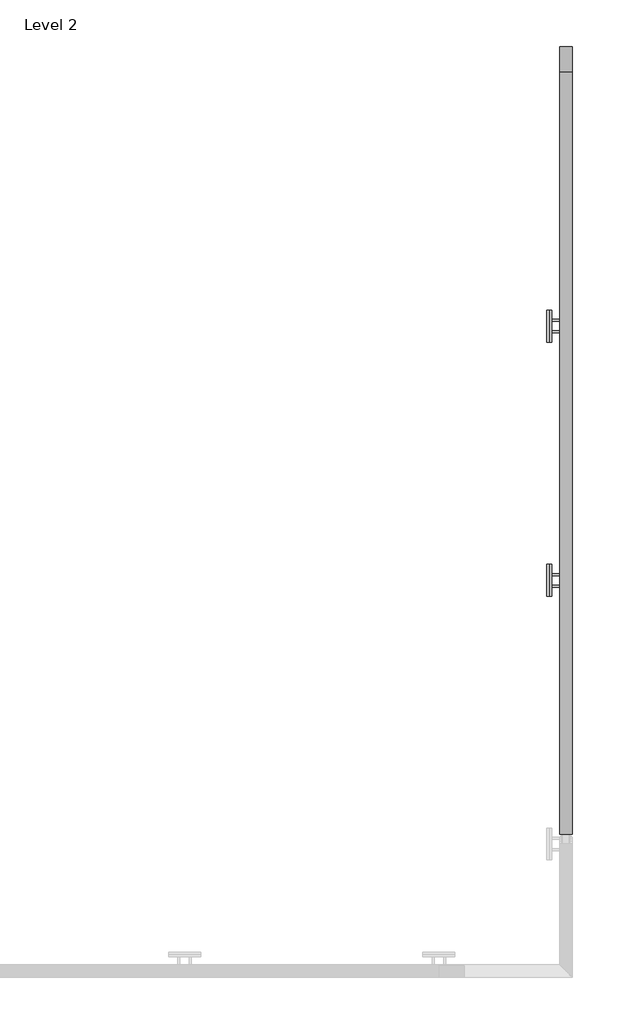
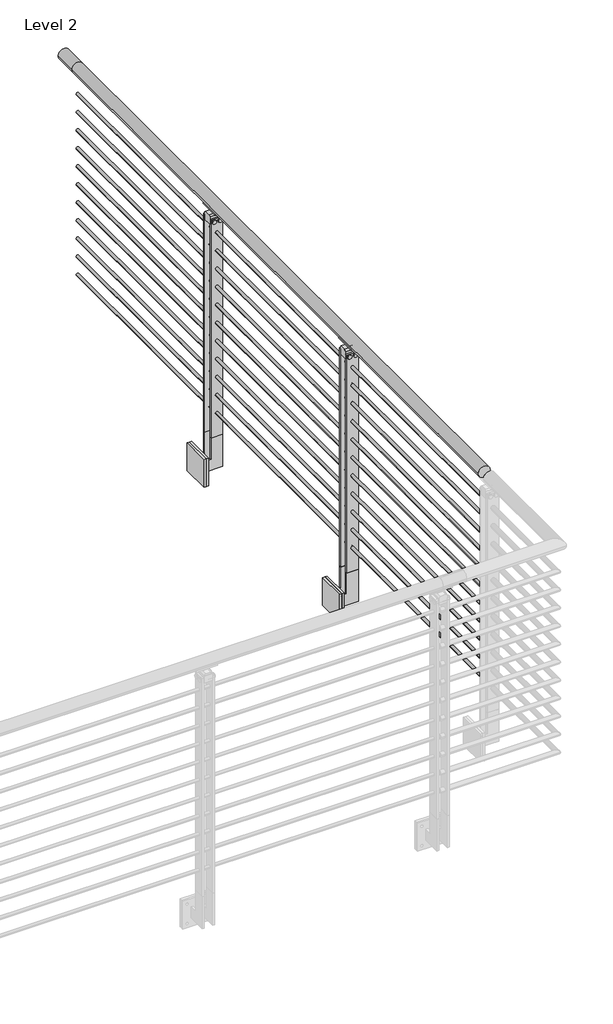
# One storey, part 4 of 31: 1 railing.
"""IFC4 building model written with IfcOpenShell, lengths in millimetres."""

from ifc_helpers import new_model, si_unit, point, frame, frame_2d, origin, place, context, project, spatial, polyline, circle_curve, trimmed, segment, composite_curve, outline, extrude, element, save
from ifc_brep_helpers import plane_surface, cylinder_surface, revolved_surface, advanced_brep

model = new_model("IFC4")

# Units and contexts
model_context = context("Model", 3, world=origin())
ifc_project = project(units=[si_unit("LENGTHUNIT", "METRE", prefix="MILLI")], contexts=[model_context])

# Site, building, storey
site = spatial("IfcSite", under=ifc_project)
building = spatial("IfcBuilding", under=site)
storey = spatial("IfcBuildingStorey", under=building, Name="Level 2", Elevation=3048.0)

# Railing
placement = place(None, origin())
element("IfcRailing", 1, ObjectType="VIVA-BLADE-Multiline-Fascia Mount-Straight", at=placement, inside=storey, context=model_context, shape_type="SolidModel", body=[
    advanced_brep(
    [(-3649.4054973, -66455.7426165, 4102.1), (-3598.6054973, -66455.7426165, 4102.1), (-3649.4054973, -66557.3426165, 4102.1), (-3598.6054973, -66557.3426165, 4102.1), (-3649.4054973, -69605.3426165, 4102.1), (-3598.6054973, -69605.3426165, 4102.1)],
    [
        (0, 1, circle_curve(frame((-3624.0054973, -66455.7426165, 4102.1), z_axis=(0.0, 1.0, 0.0), x_axis=(1.0, 0.0, 0.0)), 25.4)),
        (1, 0, circle_curve(frame((-3624.0054973, -66455.7426165, 4102.1), z_axis=(0.0, 1.0, 0.0), x_axis=(1.0, 0.0, 0.0)), 25.4)),
        (0, 2),
        (2, 3, circle_curve(frame((-3624.0054973, -66557.3426165, 4102.1), z_axis=(0.0, 1.0, 0.0), x_axis=(1.0, 0.0, 0.0)), 25.4)),
        (3, 1),
        (3, 2, circle_curve(frame((-3624.0054973, -66557.3426165, 4102.1), z_axis=(0.0, 1.0, 0.0), x_axis=(1.0, 0.0, 0.0)), 25.4)),
        (4, 5, circle_curve(frame((-3624.0054973, -69605.3426165, 4102.1), z_axis=(0.0, -1.0, 0.0), x_axis=(1.0, 0.0, 0.0)), 25.4)),
        (5, 4, circle_curve(frame((-3624.0054973, -69605.3426165, 4102.1), z_axis=(0.0, -1.0, 0.0), x_axis=(1.0, 0.0, 0.0)), 25.4)),
        (2, 4),
        (5, 3),
    ],
    [
        plane_surface(frame((-3624.0054973, -66455.7426165, 4127.5), z_axis=(0.0, 1.0, 0.0), x_axis=(0.0, 0.0, -1.0))),
        cylinder_surface(frame((-3624.0054973, -66455.7426165, 4102.1), z_axis=(0.0, 1.0, 0.0), x_axis=(1.0, 0.0, 0.0)), 25.4),
        plane_surface(frame((-3624.0054973, -69605.3426165, 4127.5), z_axis=(0.0, -1.0, 0.0), x_axis=(0.0, 0.0, -1.0))),
        cylinder_surface(frame((-3624.0054973, -66557.3426165, 4102.1), z_axis=(0.0, 1.0, 0.0), x_axis=(1.0, 0.0, 0.0)), 25.4),
    ],
    [
        (0, [[1, 2]]),
        (1, [[-1, 3, 4, 5]]),
        (1, [[-2, -5, 6, -3]]),
        (2, [[7, 8]]),
        (3, [[-4, 9, -8, 10]]),
        (3, [[-6, -10, -7, -9]]),
    ],
),
    extrude(outline(composite_curve([segment(trimmed(circle_curve(frame_2d((3981.45, -3624.0054973)), 6.35), [point((3981.45, -3630.3554973))], [point((3981.45, -3617.6554973))], False, "CARTESIAN"), True, "CONTINUOUS"), segment(trimmed(circle_curve(frame_2d((3981.45, -3624.0054973)), 6.35), [point((3981.45, -3617.6554973))], [point((3981.45, -3630.3554973))], False, "CARTESIAN"), True, "CONTINUOUS")], self_intersect=False)), frame((0.0, -69605.3426165, 0.0), z_axis=(0.0, 1.0, 0.0), x_axis=(0.0, 0.0, 1.0)), (0.0, 0.0, 1.0), 3048.0),
    extrude(outline(composite_curve([segment(trimmed(circle_curve(frame_2d((3898.9, -3624.0054973)), 6.35), [point((3898.9, -3630.3554973))], [point((3898.9, -3617.6554973))], False, "CARTESIAN"), True, "CONTINUOUS"), segment(trimmed(circle_curve(frame_2d((3898.9, -3624.0054973)), 6.35), [point((3898.9, -3617.6554973))], [point((3898.9, -3630.3554973))], False, "CARTESIAN"), True, "CONTINUOUS")], self_intersect=False)), frame((0.0, -69605.3426165, 0.0), z_axis=(0.0, 1.0, 0.0), x_axis=(0.0, 0.0, 1.0)), (0.0, 0.0, 1.0), 3048.0),
    extrude(outline(composite_curve([segment(trimmed(circle_curve(frame_2d((3816.35, -3624.0054973)), 6.35), [point((3816.35, -3630.3554973))], [point((3816.35, -3617.6554973))], False, "CARTESIAN"), True, "CONTINUOUS"), segment(trimmed(circle_curve(frame_2d((3816.35, -3624.0054973)), 6.35), [point((3816.35, -3617.6554973))], [point((3816.35, -3630.3554973))], False, "CARTESIAN"), True, "CONTINUOUS")], self_intersect=False)), frame((0.0, -69605.3426165, 0.0), z_axis=(0.0, 1.0, 0.0), x_axis=(0.0, 0.0, 1.0)), (0.0, 0.0, 1.0), 3048.0),
    extrude(outline(composite_curve([segment(trimmed(circle_curve(frame_2d((3733.8, -3624.0054973)), 6.35), [point((3733.8, -3630.3554973))], [point((3733.8, -3617.6554973))], False, "CARTESIAN"), True, "CONTINUOUS"), segment(trimmed(circle_curve(frame_2d((3733.8, -3624.0054973)), 6.35), [point((3733.8, -3617.6554973))], [point((3733.8, -3630.3554973))], False, "CARTESIAN"), True, "CONTINUOUS")], self_intersect=False)), frame((0.0, -69605.3426165, 0.0), z_axis=(0.0, 1.0, 0.0), x_axis=(0.0, 0.0, 1.0)), (0.0, 0.0, 1.0), 3048.0),
    extrude(outline(composite_curve([segment(trimmed(circle_curve(frame_2d((3651.25, -3624.0054973)), 6.35), [point((3651.25, -3630.3554973))], [point((3651.25, -3617.6554973))], False, "CARTESIAN"), True, "CONTINUOUS"), segment(trimmed(circle_curve(frame_2d((3651.25, -3624.0054973)), 6.35), [point((3651.25, -3617.6554973))], [point((3651.25, -3630.3554973))], False, "CARTESIAN"), True, "CONTINUOUS")], self_intersect=False)), frame((0.0, -69605.3426165, 0.0), z_axis=(0.0, 1.0, 0.0), x_axis=(0.0, 0.0, 1.0)), (0.0, 0.0, 1.0), 3048.0),
    extrude(outline(composite_curve([segment(trimmed(circle_curve(frame_2d((3568.7, -3624.0054973)), 6.35), [point((3568.7, -3630.3554973))], [point((3568.7, -3617.6554973))], False, "CARTESIAN"), True, "CONTINUOUS"), segment(trimmed(circle_curve(frame_2d((3568.7, -3624.0054973)), 6.35), [point((3568.7, -3617.6554973))], [point((3568.7, -3630.3554973))], False, "CARTESIAN"), True, "CONTINUOUS")], self_intersect=False)), frame((0.0, -69605.3426165, 0.0), z_axis=(0.0, 1.0, 0.0), x_axis=(0.0, 0.0, 1.0)), (0.0, 0.0, 1.0), 3048.0),
    extrude(outline(composite_curve([segment(trimmed(circle_curve(frame_2d((3486.15, -3624.0054973)), 6.35), [point((3486.15, -3630.3554973))], [point((3486.15, -3617.6554973))], False, "CARTESIAN"), True, "CONTINUOUS"), segment(trimmed(circle_curve(frame_2d((3486.15, -3624.0054973)), 6.35), [point((3486.15, -3617.6554973))], [point((3486.15, -3630.3554973))], False, "CARTESIAN"), True, "CONTINUOUS")], self_intersect=False)), frame((0.0, -69605.3426165, 0.0), z_axis=(0.0, 1.0, 0.0), x_axis=(0.0, 0.0, 1.0)), (0.0, 0.0, 1.0), 3048.0),
    extrude(outline(composite_curve([segment(trimmed(circle_curve(frame_2d((3403.6, -3624.0054973)), 6.35), [point((3403.6, -3630.3554973))], [point((3403.6, -3617.6554973))], False, "CARTESIAN"), True, "CONTINUOUS"), segment(trimmed(circle_curve(frame_2d((3403.6, -3624.0054973)), 6.35), [point((3403.6, -3617.6554973))], [point((3403.6, -3630.3554973))], False, "CARTESIAN"), True, "CONTINUOUS")], self_intersect=False)), frame((0.0, -69605.3426165, 0.0), z_axis=(0.0, 1.0, 0.0), x_axis=(0.0, 0.0, 1.0)), (0.0, 0.0, 1.0), 3048.0),
    extrude(outline(composite_curve([segment(trimmed(circle_curve(frame_2d((3321.05, -3624.0054973)), 6.35), [point((3321.05, -3630.3554973))], [point((3321.05, -3617.6554973))], False, "CARTESIAN"), True, "CONTINUOUS"), segment(trimmed(circle_curve(frame_2d((3321.05, -3624.0054973)), 6.35), [point((3321.05, -3617.6554973))], [point((3321.05, -3630.3554973))], False, "CARTESIAN"), True, "CONTINUOUS")], self_intersect=False)), frame((0.0, -69605.3426165, 0.0), z_axis=(0.0, 1.0, 0.0), x_axis=(0.0, 0.0, 1.0)), (0.0, 0.0, 1.0), 3048.0),
    extrude(outline(composite_curve([segment(trimmed(circle_curve(frame_2d((3238.5, -3624.0054973)), 6.35), [point((3238.5, -3630.3554973))], [point((3238.5, -3617.6554973))], False, "CARTESIAN"), True, "CONTINUOUS"), segment(trimmed(circle_curve(frame_2d((3238.5, -3624.0054973)), 6.35), [point((3238.5, -3617.6554973))], [point((3238.5, -3630.3554973))], False, "CARTESIAN"), True, "CONTINUOUS")], self_intersect=False)), frame((0.0, -69605.3426165, 0.0), z_axis=(0.0, 1.0, 0.0), x_axis=(0.0, 0.0, 1.0)), (0.0, 0.0, 1.0), 3048.0),
    extrude(outline(composite_curve([segment(trimmed(circle_curve(frame_2d((3155.95, -3624.0054973)), 6.35), [point((3155.95, -3630.3554973))], [point((3155.95, -3617.6554973))], False, "CARTESIAN"), True, "CONTINUOUS"), segment(trimmed(circle_curve(frame_2d((3155.95, -3624.0054973)), 6.35), [point((3155.95, -3617.6554973))], [point((3155.95, -3630.3554973))], False, "CARTESIAN"), True, "CONTINUOUS")], self_intersect=False)), frame((0.0, -69605.3426165, 0.0), z_axis=(0.0, 1.0, 0.0), x_axis=(0.0, 0.0, 1.0)), (0.0, 0.0, 1.0), 3048.0),
    extrude(outline(polyline([(2901.95, -3598.6029694), (3048.0, -3598.6029694), (3048.0, -3649.4029694), (2952.75, -3649.4029694), (2952.75, -3681.1557031), (2901.95, -3681.1557031), (2901.95, -3598.6029694)])), frame((0.0, -68570.2926165, 0.0), z_axis=(0.0, 1.0, 0.0), x_axis=(0.0, 0.0, 1.0)), (0.0, 0.0, 1.0), 8.0248357),
    extrude(outline(polyline([(3048.0, -3649.4029694), (2952.75, -3649.4029694), (2952.75, -3681.1557031), (2901.95, -3681.1557031), (2901.95, -3598.6029694), (3048.0, -3598.6029694), (3048.0, -3649.4029694)])), frame((0.0, -68616.3935785, 0.0), z_axis=(0.0, 1.0, 0.0), x_axis=(0.0, 0.0, 1.0)), (0.0, 0.0, 1.0), 8.001),
    advanced_brep(
    [(-3636.765621, -68634.5800165, 4080.0967655), (-3640.6015184, -68634.5800165, 4075.707533), (-3609.0846261, -68634.5800165, 4075.1267745), (-3611.8935564, -68634.5800165, 4079.9535285), (-3636.765621, -68544.1052165, 4080.0967655), (-3611.8065843, -68544.1052165, 4080.0018447), (-3608.9708327, -68544.1052165, 4075.1893964), (-3640.6015184, -68544.1052165, 4075.707533)],
    [
        (0, 1, circle_curve(frame((-3638.3131786, -68634.5800165, 4077.5784521), z_axis=(0.0, -1.0, 0.0), x_axis=(-1.0, 0.0, 0.0)), 2.9558141)),
        (1, 2, circle_curve(frame((-3624.3352812, -68634.5800165, 4102.9742164), z_axis=(0.0, -1.0, 0.0), x_axis=(-1.0, 0.0, 0.0)), 31.75)),
        (2, 3, circle_curve(frame((-3610.5619312, -68634.5800165, 4077.4993599), z_axis=(0.0, -1.0, 0.0), x_axis=(-1.0, 0.0, 0.0)), 2.7949225)),
        (3, 0, circle_curve(frame((-3624.2018181, -68634.5800165, 4102.2115898), z_axis=(0.0, 1.0, 0.0), x_axis=(-1.0, 0.0, 0.0)), 25.4345159)),
        (4, 5, circle_curve(frame((-3624.2018181, -68544.1052165, 4102.2115898), z_axis=(0.0, -1.0, 0.0), x_axis=(-1.0, 0.0, 0.0)), 25.4345159)),
        (5, 6, circle_curve(frame((-3610.5619312, -68544.1052165, 4077.4993599), z_axis=(0.0, 1.0, 0.0), x_axis=(-1.0, 0.0, 0.0)), 2.7949225)),
        (6, 7, circle_curve(frame((-3624.3352812, -68544.1052165, 4102.9742164), z_axis=(0.0, 1.0, 0.0), x_axis=(-1.0, 0.0, 0.0)), 31.75)),
        (7, 4, circle_curve(frame((-3638.3131786, -68544.1052165, 4077.5784521), z_axis=(0.0, 1.0, 0.0), x_axis=(-1.0, 0.0, 0.0)), 2.9558141)),
        (3, 5),
        (4, 0),
        (2, 6),
        (1, 7),
    ],
    [
        plane_surface(frame((-3649.6363339, -68634.5800165, 4102.2115898), z_axis=(0.0, -1.0, 0.0), x_axis=(0.0, 0.0, -1.0))),
        plane_surface(frame((-3649.6363339, -68544.1052165, 4102.2115898), z_axis=(0.0, 1.0, 0.0), x_axis=(0.0, 0.0, 1.0))),
        revolved_surface(polyline([(-3649.636334, -68544.1052165, 4102.2115898), (-3649.636334, -68634.5800165, 4102.2115898)]), (-3624.2018181, -68544.1052165, 4102.2115898), (0.0, 1.0, 0.0)),
        cylinder_surface(frame((-3610.5619312, -68544.1052165, 4077.4993599), z_axis=(0.0, -1.0, 0.0), x_axis=(-1.0, 0.0, 0.0)), 2.7949225),
        cylinder_surface(frame((-3624.3352812, -68544.1052165, 4102.9742164), z_axis=(0.0, -1.0, 0.0), x_axis=(-1.0, 0.0, 0.0)), 31.75),
        cylinder_surface(frame((-3638.3131786, -68544.1052165, 4077.5784521), z_axis=(0.0, -1.0, 0.0), x_axis=(-1.0, 0.0, 0.0)), 2.9558141),
    ],
    [
        (0, [[1, 2, 3, 4]]),
        (1, [[5, 6, 7, 8]]),
        (2, [[9, -5, 10, -4]]),
        (3, [[11, -6, -9, -3]]),
        (4, [[12, -7, -11, -2]]),
        (5, [[-10, -8, -12, -1]]),
    ],
),
    extrude(outline(polyline([(-3700.2057031, -68652.8306797), (-3700.2057031, -68525.8306797), (-3690.6807031, -68525.8306797), (-3690.6807031, -68652.8306797), (-3700.2057031, -68652.8306797)])), frame((0.0, 0.0, 2863.85), z_axis=(0.0, 0.0, 1.0), x_axis=(1.0, 0.0, 0.0)), (0.0, 0.0, 1.0), 127.0),
    extrude(outline(composite_curve([segment(trimmed(circle_curve(frame_2d((-68616.4105314, 4062.4125)), 14.3679149), [point((-68602.0426165, 4062.4125))], [point((-68616.4105314, 4076.7804149))], True, "CARTESIAN"), True, "CONTINUOUS"), segment(polyline([(-68616.4105314, 4076.7804149), (-68562.2747017, 4076.7804149)]), True, "CONTINUOUS"), segment(trimmed(circle_curve(frame_2d((-68562.2747017, 4062.4125)), 14.3679149), [point((-68562.2747017, 4076.7804149))], [point((-68576.6426165, 4062.4125))], True, "CARTESIAN"), True, "CONTINUOUS"), segment(polyline([(-68576.6426165, 4062.4125), (-68602.0426165, 4062.4125)]), True, "CONTINUOUS")], self_intersect=False)), frame((-3626.5454973, 0.0, 0.0), z_axis=(1.0, 0.0, 0.0), x_axis=(0.0, 1.0, 0.0)), (0.0, 0.0, 1.0), 5.08),
    extrude(outline(polyline([(-3649.405294, -68562.2677809), (-3598.6029694, -68562.2677809), (-3598.6029694, -68570.2926165), (-3649.405294, -68570.2926165), (-3649.405294, -68562.2677809)])), frame((0.0, 0.0, 3048.0), z_axis=(0.0, 0.0, 1.0), x_axis=(1.0, 0.0, 0.0)), (0.0, 0.0, 1.0), 996.95),
    extrude(outline(polyline([(-68525.8306797, 2863.85), (-68652.8306797, 2863.85), (-68652.8306797, 2990.85), (-68525.8306797, 2990.85), (-68525.8306797, 2863.85)]), holes=[composite_curve([segment(trimmed(circle_curve(frame_2d((-68544.8806797, 2971.8)), 4.7068371), [point((-68549.5875168, 2971.8))], [point((-68540.1738426, 2971.8))], True, "CARTESIAN"), True, "CONTINUOUS"), segment(trimmed(circle_curve(frame_2d((-68544.8806797, 2971.8)), 4.7068371), [point((-68540.1738426, 2971.8))], [point((-68549.5875168, 2971.8))], True, "CARTESIAN"), True, "CONTINUOUS")], self_intersect=False), composite_curve([segment(trimmed(circle_curve(frame_2d((-68633.7806797, 2971.8)), 4.7068371), [point((-68638.4875168, 2971.8))], [point((-68629.0738426, 2971.8))], True, "CARTESIAN"), True, "CONTINUOUS"), segment(trimmed(circle_curve(frame_2d((-68633.7806797, 2971.8)), 4.7068371), [point((-68629.0738426, 2971.8))], [point((-68638.4875168, 2971.8))], True, "CARTESIAN"), True, "CONTINUOUS")], self_intersect=False), composite_curve([segment(trimmed(circle_curve(frame_2d((-68633.7806797, 2882.9)), 4.7068371), [point((-68638.4875168, 2882.9))], [point((-68629.0738426, 2882.9))], True, "CARTESIAN"), True, "CONTINUOUS"), segment(trimmed(circle_curve(frame_2d((-68633.7806797, 2882.9)), 4.7068371), [point((-68629.0738426, 2882.9))], [point((-68638.4875168, 2882.9))], True, "CARTESIAN"), True, "CONTINUOUS")], self_intersect=False), composite_curve([segment(trimmed(circle_curve(frame_2d((-68544.8806797, 2882.9)), 4.7068371), [point((-68549.5875168, 2882.9))], [point((-68540.1738426, 2882.9))], True, "CARTESIAN"), True, "CONTINUOUS"), segment(trimmed(circle_curve(frame_2d((-68544.8806797, 2882.9)), 4.7068371), [point((-68540.1738426, 2882.9))], [point((-68549.5875168, 2882.9))], True, "CARTESIAN"), True, "CONTINUOUS")], self_intersect=False)]), frame((-3690.6807031, 0.0, 0.0), z_axis=(1.0, 0.0, 0.0), x_axis=(0.0, 1.0, 0.0)), (0.0, 0.0, 1.0), 9.525),
    extrude(outline(composite_curve([segment(trimmed(circle_curve(frame_2d((4034.0416929, -3611.3030204)), 8.89), [point((4034.0416929, -3602.4130204))], [point((4034.0416929, -3620.1930204))], False, "CARTESIAN"), True, "CONTINUOUS"), segment(trimmed(circle_curve(frame_2d((4034.0416929, -3611.3030204)), 8.89), [point((4034.0416929, -3620.1930204))], [point((4034.0416929, -3602.4130204))], False, "CARTESIAN"), True, "CONTINUOUS")], self_intersect=False)), frame((0.0, -68621.0806797, 0.0), z_axis=(0.0, 1.0, 0.0), x_axis=(0.0, 0.0, 1.0)), (0.0, 0.0, 1.0), 63.4880631),
    extrude(outline(composite_curve([segment(trimmed(circle_curve(frame_2d((4034.0416929, -3636.7029184)), 8.89), [point((4034.0416929, -3627.8129184))], [point((4034.0416929, -3645.5929184))], False, "CARTESIAN"), True, "CONTINUOUS"), segment(trimmed(circle_curve(frame_2d((4034.0416929, -3636.7029184)), 8.89), [point((4034.0416929, -3645.5929184))], [point((4034.0416929, -3627.8129184))], False, "CARTESIAN"), True, "CONTINUOUS")], self_intersect=False)), frame((0.0, -68621.0806797, 0.0), z_axis=(0.0, 1.0, 0.0), x_axis=(0.0, 0.0, 1.0)), (0.0, 0.0, 1.0), 63.4880631),
    extrude(outline(polyline([(-68570.2926165, 4022.7123), (-68608.3926165, 4022.7123), (-68608.3926165, 4056.0625), (-68602.0426165, 4062.4125), (-68576.6426165, 4062.4125), (-68570.2926165, 4056.0625), (-68570.2926165, 4022.7123)])), frame((-3649.4054973, 0.0, 0.0), z_axis=(1.0, 0.0, 0.0), x_axis=(0.0, 1.0, 0.0)), (0.0, 0.0, 1.0), 50.8025279),
    extrude(outline(polyline([(-3649.405294, -68608.3925785), (-3598.6029694, -68608.3925785), (-3598.6029694, -68616.3935785), (-3649.405294, -68616.3935785), (-3649.405294, -68608.3925785)])), frame((0.0, 0.0, 3048.0), z_axis=(0.0, 0.0, 1.0), x_axis=(1.0, 0.0, 0.0)), (0.0, 0.0, 1.0), 996.95),
    extrude(outline(polyline([(2901.95, -3598.6029694), (3048.0, -3598.6029694), (3048.0, -3649.4029694), (2952.75, -3649.4029694), (2952.75, -3681.1557031), (2901.95, -3681.1557031), (2901.95, -3598.6029694)])), frame((0.0, -67554.2926165, 0.0), z_axis=(0.0, 1.0, 0.0), x_axis=(0.0, 0.0, 1.0)), (0.0, 0.0, 1.0), 8.0248357),
    extrude(outline(polyline([(3048.0, -3649.4029694), (2952.75, -3649.4029694), (2952.75, -3681.1557031), (2901.95, -3681.1557031), (2901.95, -3598.6029694), (3048.0, -3598.6029694), (3048.0, -3649.4029694)])), frame((0.0, -67600.3935785, 0.0), z_axis=(0.0, 1.0, 0.0), x_axis=(0.0, 0.0, 1.0)), (0.0, 0.0, 1.0), 8.001),
    advanced_brep(
    [(-3636.765621, -67618.5800165, 4080.0967655), (-3640.6015184, -67618.5800165, 4075.707533), (-3609.0846261, -67618.5800165, 4075.1267745), (-3611.8935564, -67618.5800165, 4079.9535285), (-3636.765621, -67528.1052165, 4080.0967655), (-3611.8065843, -67528.1052165, 4080.0018447), (-3608.9708327, -67528.1052165, 4075.1893964), (-3640.6015184, -67528.1052165, 4075.707533)],
    [
        (0, 1, circle_curve(frame((-3638.3131786, -67618.5800165, 4077.5784521), z_axis=(0.0, -1.0, 0.0), x_axis=(-1.0, 0.0, 0.0)), 2.9558141)),
        (1, 2, circle_curve(frame((-3624.3352812, -67618.5800165, 4102.9742164), z_axis=(0.0, -1.0, 0.0), x_axis=(-1.0, 0.0, 0.0)), 31.75)),
        (2, 3, circle_curve(frame((-3610.5619312, -67618.5800165, 4077.4993599), z_axis=(0.0, -1.0, 0.0), x_axis=(-1.0, 0.0, 0.0)), 2.7949225)),
        (3, 0, circle_curve(frame((-3624.2018181, -67618.5800165, 4102.2115898), z_axis=(0.0, 1.0, 0.0), x_axis=(-1.0, 0.0, 0.0)), 25.4345159)),
        (4, 5, circle_curve(frame((-3624.2018181, -67528.1052165, 4102.2115898), z_axis=(0.0, -1.0, 0.0), x_axis=(-1.0, 0.0, 0.0)), 25.4345159)),
        (5, 6, circle_curve(frame((-3610.5619312, -67528.1052165, 4077.4993599), z_axis=(0.0, 1.0, 0.0), x_axis=(-1.0, 0.0, 0.0)), 2.7949225)),
        (6, 7, circle_curve(frame((-3624.3352812, -67528.1052165, 4102.9742164), z_axis=(0.0, 1.0, 0.0), x_axis=(-1.0, 0.0, 0.0)), 31.75)),
        (7, 4, circle_curve(frame((-3638.3131786, -67528.1052165, 4077.5784521), z_axis=(0.0, 1.0, 0.0), x_axis=(-1.0, 0.0, 0.0)), 2.9558141)),
        (3, 5),
        (4, 0),
        (2, 6),
        (1, 7),
    ],
    [
        plane_surface(frame((-3649.6363339, -67618.5800165, 4102.2115898), z_axis=(0.0, -1.0, 0.0), x_axis=(0.0, 0.0, -1.0))),
        plane_surface(frame((-3649.6363339, -67528.1052165, 4102.2115898), z_axis=(0.0, 1.0, 0.0), x_axis=(0.0, 0.0, 1.0))),
        revolved_surface(polyline([(-3649.636334, -67528.1052165, 4102.2115898), (-3649.636334, -67618.5800165, 4102.2115898)]), (-3624.2018181, -67528.1052165, 4102.2115898), (0.0, 1.0, 0.0)),
        cylinder_surface(frame((-3610.5619312, -67528.1052165, 4077.4993599), z_axis=(0.0, -1.0, 0.0), x_axis=(-1.0, 0.0, 0.0)), 2.7949225),
        cylinder_surface(frame((-3624.3352812, -67528.1052165, 4102.9742164), z_axis=(0.0, -1.0, 0.0), x_axis=(-1.0, 0.0, 0.0)), 31.75),
        cylinder_surface(frame((-3638.3131786, -67528.1052165, 4077.5784521), z_axis=(0.0, -1.0, 0.0), x_axis=(-1.0, 0.0, 0.0)), 2.9558141),
    ],
    [
        (0, [[1, 2, 3, 4]]),
        (1, [[5, 6, 7, 8]]),
        (2, [[9, -5, 10, -4]]),
        (3, [[11, -6, -9, -3]]),
        (4, [[12, -7, -11, -2]]),
        (5, [[-10, -8, -12, -1]]),
    ],
),
    extrude(outline(polyline([(-3700.2057031, -67636.8306797), (-3700.2057031, -67509.8306797), (-3690.6807031, -67509.8306797), (-3690.6807031, -67636.8306797), (-3700.2057031, -67636.8306797)])), frame((0.0, 0.0, 2863.85), z_axis=(0.0, 0.0, 1.0), x_axis=(1.0, 0.0, 0.0)), (0.0, 0.0, 1.0), 127.0),
    extrude(outline(composite_curve([segment(trimmed(circle_curve(frame_2d((-67600.4105314, 4062.4125)), 14.3679149), [point((-67586.0426165, 4062.4125))], [point((-67600.4105314, 4076.7804149))], True, "CARTESIAN"), True, "CONTINUOUS"), segment(polyline([(-67600.4105314, 4076.7804149), (-67546.2747017, 4076.7804149)]), True, "CONTINUOUS"), segment(trimmed(circle_curve(frame_2d((-67546.2747017, 4062.4125)), 14.3679149), [point((-67546.2747017, 4076.7804149))], [point((-67560.6426165, 4062.4125))], True, "CARTESIAN"), True, "CONTINUOUS"), segment(polyline([(-67560.6426165, 4062.4125), (-67586.0426165, 4062.4125)]), True, "CONTINUOUS")], self_intersect=False)), frame((-3626.5454973, 0.0, 0.0), z_axis=(1.0, 0.0, 0.0), x_axis=(0.0, 1.0, 0.0)), (0.0, 0.0, 1.0), 5.08),
    extrude(outline(polyline([(-3649.405294, -67546.2677809), (-3598.6029694, -67546.2677809), (-3598.6029694, -67554.2926165), (-3649.405294, -67554.2926165), (-3649.405294, -67546.2677809)])), frame((0.0, 0.0, 3048.0), z_axis=(0.0, 0.0, 1.0), x_axis=(1.0, 0.0, 0.0)), (0.0, 0.0, 1.0), 996.95),
    extrude(outline(polyline([(-67509.8306797, 2863.85), (-67636.8306797, 2863.85), (-67636.8306797, 2990.85), (-67509.8306797, 2990.85), (-67509.8306797, 2863.85)]), holes=[composite_curve([segment(trimmed(circle_curve(frame_2d((-67528.8806797, 2971.8)), 4.7068371), [point((-67533.5875168, 2971.8))], [point((-67524.1738426, 2971.8))], True, "CARTESIAN"), True, "CONTINUOUS"), segment(trimmed(circle_curve(frame_2d((-67528.8806797, 2971.8)), 4.7068371), [point((-67524.1738426, 2971.8))], [point((-67533.5875168, 2971.8))], True, "CARTESIAN"), True, "CONTINUOUS")], self_intersect=False), composite_curve([segment(trimmed(circle_curve(frame_2d((-67617.7806797, 2971.8)), 4.7068371), [point((-67622.4875168, 2971.8))], [point((-67613.0738426, 2971.8))], True, "CARTESIAN"), True, "CONTINUOUS"), segment(trimmed(circle_curve(frame_2d((-67617.7806797, 2971.8)), 4.7068371), [point((-67613.0738426, 2971.8))], [point((-67622.4875168, 2971.8))], True, "CARTESIAN"), True, "CONTINUOUS")], self_intersect=False), composite_curve([segment(trimmed(circle_curve(frame_2d((-67617.7806797, 2882.9)), 4.7068371), [point((-67622.4875168, 2882.9))], [point((-67613.0738426, 2882.9))], True, "CARTESIAN"), True, "CONTINUOUS"), segment(trimmed(circle_curve(frame_2d((-67617.7806797, 2882.9)), 4.7068371), [point((-67613.0738426, 2882.9))], [point((-67622.4875168, 2882.9))], True, "CARTESIAN"), True, "CONTINUOUS")], self_intersect=False), composite_curve([segment(trimmed(circle_curve(frame_2d((-67528.8806797, 2882.9)), 4.7068371), [point((-67533.5875168, 2882.9))], [point((-67524.1738426, 2882.9))], True, "CARTESIAN"), True, "CONTINUOUS"), segment(trimmed(circle_curve(frame_2d((-67528.8806797, 2882.9)), 4.7068371), [point((-67524.1738426, 2882.9))], [point((-67533.5875168, 2882.9))], True, "CARTESIAN"), True, "CONTINUOUS")], self_intersect=False)]), frame((-3690.6807031, 0.0, 0.0), z_axis=(1.0, 0.0, 0.0), x_axis=(0.0, 1.0, 0.0)), (0.0, 0.0, 1.0), 9.525),
    extrude(outline(composite_curve([segment(trimmed(circle_curve(frame_2d((4034.0416929, -3611.3030204)), 8.89), [point((4034.0416929, -3602.4130204))], [point((4034.0416929, -3620.1930204))], False, "CARTESIAN"), True, "CONTINUOUS"), segment(trimmed(circle_curve(frame_2d((4034.0416929, -3611.3030204)), 8.89), [point((4034.0416929, -3620.1930204))], [point((4034.0416929, -3602.4130204))], False, "CARTESIAN"), True, "CONTINUOUS")], self_intersect=False)), frame((0.0, -67605.0806797, 0.0), z_axis=(0.0, 1.0, 0.0), x_axis=(0.0, 0.0, 1.0)), (0.0, 0.0, 1.0), 63.4880631),
    extrude(outline(composite_curve([segment(trimmed(circle_curve(frame_2d((4034.0416929, -3636.7029184)), 8.89), [point((4034.0416929, -3627.8129184))], [point((4034.0416929, -3645.5929184))], False, "CARTESIAN"), True, "CONTINUOUS"), segment(trimmed(circle_curve(frame_2d((4034.0416929, -3636.7029184)), 8.89), [point((4034.0416929, -3645.5929184))], [point((4034.0416929, -3627.8129184))], False, "CARTESIAN"), True, "CONTINUOUS")], self_intersect=False)), frame((0.0, -67605.0806797, 0.0), z_axis=(0.0, 1.0, 0.0), x_axis=(0.0, 0.0, 1.0)), (0.0, 0.0, 1.0), 63.4880631),
    extrude(outline(polyline([(-67554.2926165, 4022.7123), (-67592.3926165, 4022.7123), (-67592.3926165, 4056.0625), (-67586.0426165, 4062.4125), (-67560.6426165, 4062.4125), (-67554.2926165, 4056.0625), (-67554.2926165, 4022.7123)])), frame((-3649.4054973, 0.0, 0.0), z_axis=(1.0, 0.0, 0.0), x_axis=(0.0, 1.0, 0.0)), (0.0, 0.0, 1.0), 50.8025279),
    extrude(outline(polyline([(-3649.405294, -67592.3925785), (-3598.6029694, -67592.3925785), (-3598.6029694, -67600.3935785), (-3649.405294, -67600.3935785), (-3649.405294, -67592.3925785)])), frame((0.0, 0.0, 3048.0), z_axis=(0.0, 0.0, 1.0), x_axis=(1.0, 0.0, 0.0)), (0.0, 0.0, 1.0), 996.95),
])

save(model, "model.ifc")
